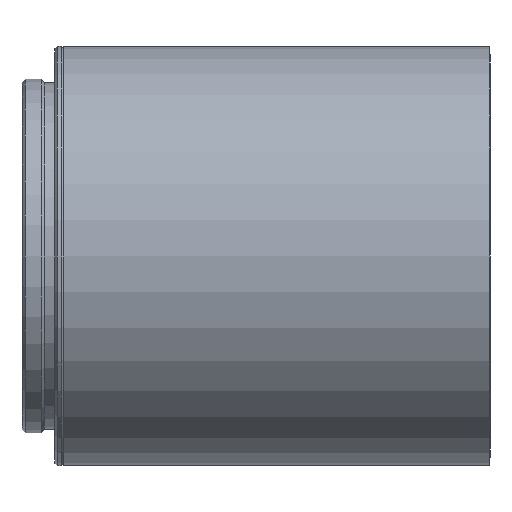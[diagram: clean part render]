
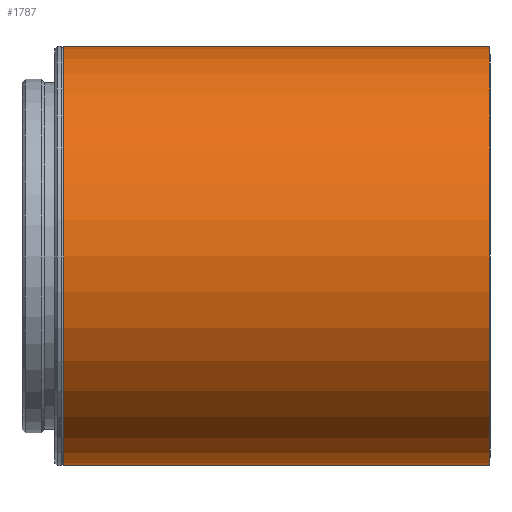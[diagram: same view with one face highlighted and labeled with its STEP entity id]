
A CAD part, left-side view. The second image highlights one B-rep face of the part: STEP entity #1787.
In plain terms, the highlighted cylindrical face has radius 16 mm (diameter 32 mm), a partial arc.
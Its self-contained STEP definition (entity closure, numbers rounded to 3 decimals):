
#45 = ORIENTED_EDGE ( 'NONE', *, *, #128, .F. ) ;
#128 = EDGE_CURVE ( 'NONE', #1333, #2324, #161, .T. ) ;
#149 = ORIENTED_EDGE ( 'NONE', *, *, #2104, .F. ) ;
#153 = AXIS2_PLACEMENT_3D ( 'NONE', #984, #410, #959 ) ;
#161 = LINE ( 'NONE', #225, #330 ) ;
#225 = CARTESIAN_POINT ( 'NONE',  ( 0., -21.352, 16. ) ) ;
#239 = DIRECTION ( 'NONE',  ( 0., 0., -1. ) ) ;
#330 = VECTOR ( 'NONE', #1489, 1000. ) ;
#410 = DIRECTION ( 'NONE',  ( 0., -1., 0. ) ) ;
#594 = LINE ( 'NONE', #2043, #1529 ) ;
#597 = AXIS2_PLACEMENT_3D ( 'NONE', #1469, #1311, #239 ) ;
#655 = VERTEX_POINT ( 'NONE', #2251 ) ;
#682 = ORIENTED_EDGE ( 'NONE', *, *, #2253, .T. ) ;
#764 = VERTEX_POINT ( 'NONE', #885 ) ;
#867 = EDGE_LOOP ( 'NONE', ( #45, #1716, #682, #149 ) ) ;
#885 = CARTESIAN_POINT ( 'NONE',  ( 0., -16.5, -16. ) ) ;
#936 = DIRECTION ( 'NONE',  ( 0., 0., -1. ) ) ;
#959 = DIRECTION ( 'NONE',  ( 0., 0., -1. ) ) ;
#984 = CARTESIAN_POINT ( 'NONE',  ( 0., -21.352, 0. ) ) ;
#1093 = CARTESIAN_POINT ( 'NONE',  ( 0., 16., 16. ) ) ;
#1184 = CIRCLE ( 'NONE', #1398, 16. ) ;
#1311 = DIRECTION ( 'NONE',  ( 0., -1., 0. ) ) ;
#1318 = CARTESIAN_POINT ( 'NONE',  ( 0., -16.5, 16. ) ) ;
#1333 = VERTEX_POINT ( 'NONE', #1093 ) ;
#1385 = FACE_OUTER_BOUND ( 'NONE', #867, .T. ) ;
#1398 = AXIS2_PLACEMENT_3D ( 'NONE', #1825, #2051, #936 ) ;
#1469 = CARTESIAN_POINT ( 'NONE',  ( 0., -16.5, 0. ) ) ;
#1489 = DIRECTION ( 'NONE',  ( 0., -1., 0. ) ) ;
#1529 = VECTOR ( 'NONE', #1631, 1000. ) ;
#1631 = DIRECTION ( 'NONE',  ( 0., -1., 0. ) ) ;
#1644 = CIRCLE ( 'NONE', #597, 16. ) ;
#1716 = ORIENTED_EDGE ( 'NONE', *, *, #2280, .T. ) ;
#1787 = ADVANCED_FACE ( 'NONE', ( #1385 ), #2125, .T. ) ;
#1825 = CARTESIAN_POINT ( 'NONE',  ( 0., 16., 0. ) ) ;
#2043 = CARTESIAN_POINT ( 'NONE',  ( 0., -21.352, -16. ) ) ;
#2051 = DIRECTION ( 'NONE',  ( 0., -1., 0. ) ) ;
#2104 = EDGE_CURVE ( 'NONE', #2324, #764, #1644, .T. ) ;
#2125 = CYLINDRICAL_SURFACE ( 'NONE', #153, 16. ) ;
#2251 = CARTESIAN_POINT ( 'NONE',  ( 0., 16., -16. ) ) ;
#2253 = EDGE_CURVE ( 'NONE', #655, #764, #594, .T. ) ;
#2280 = EDGE_CURVE ( 'NONE', #1333, #655, #1184, .T. ) ;
#2324 = VERTEX_POINT ( 'NONE', #1318 ) ;
